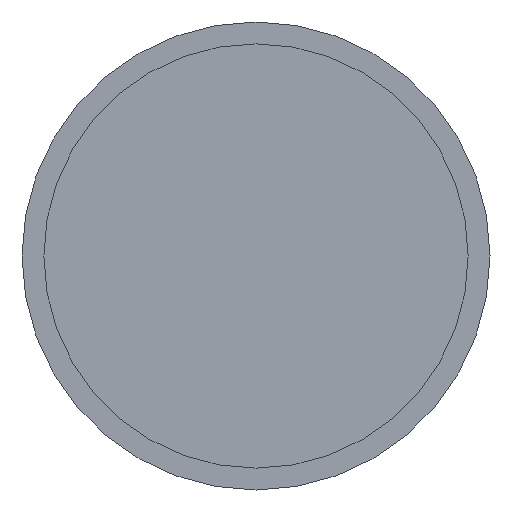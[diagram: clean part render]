
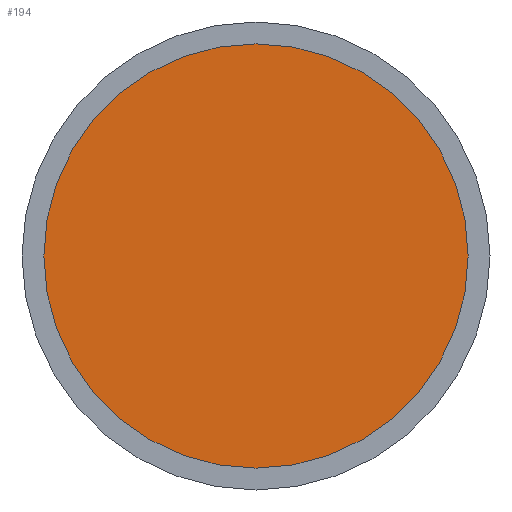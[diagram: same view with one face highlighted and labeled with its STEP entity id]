
A CAD part, front view. The second image highlights one B-rep face of the part: STEP entity #194.
In plain terms, the highlighted planar face has unit normal (0, -1, 0).
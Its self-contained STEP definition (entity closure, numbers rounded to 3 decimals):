
#4 = AXIS2_PLACEMENT_3D ( 'NONE', #27, #77, #79 ) ;
#9 = EDGE_LOOP ( 'NONE', ( #21 ) ) ;
#21 = ORIENTED_EDGE ( 'NONE', *, *, #182, .F. ) ;
#22 = VERTEX_POINT ( 'NONE', #206 ) ;
#27 = CARTESIAN_POINT ( 'NONE',  ( 0., -13.4, 0. ) ) ;
#46 = DIRECTION ( 'NONE',  ( 0., -1., 0. ) ) ;
#56 = CARTESIAN_POINT ( 'NONE',  ( -34., -13.4, 0. ) ) ;
#58 = AXIS2_PLACEMENT_3D ( 'NONE', #56, #46, #123 ) ;
#70 = CIRCLE ( 'NONE', #4, 34. ) ;
#77 = DIRECTION ( 'NONE',  ( 0., 1., 0. ) ) ;
#79 = DIRECTION ( 'NONE',  ( -1., 0., 0. ) ) ;
#93 = PLANE ( 'NONE',  #58 ) ;
#123 = DIRECTION ( 'NONE',  ( 1., 0., 0. ) ) ;
#144 = FACE_OUTER_BOUND ( 'NONE', #9, .T. ) ;
#182 = EDGE_CURVE ( 'NONE', #22, #22, #70, .T. ) ;
#194 = ADVANCED_FACE ( 'NONE', ( #144 ), #93, .T. ) ;
#206 = CARTESIAN_POINT ( 'NONE',  ( -34., -13.4, 0. ) ) ;
